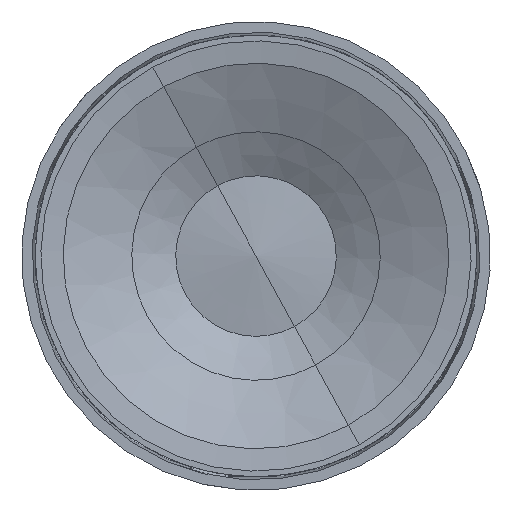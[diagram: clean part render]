
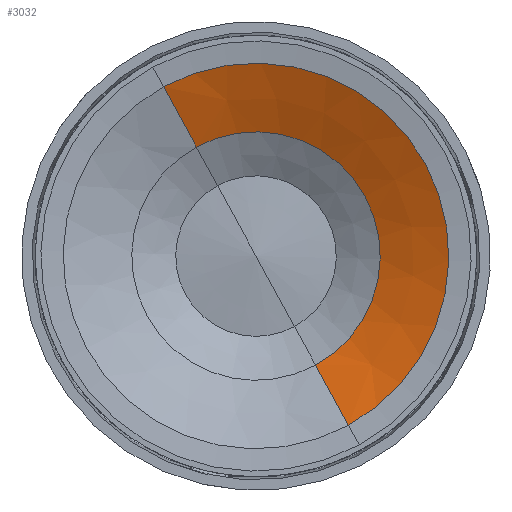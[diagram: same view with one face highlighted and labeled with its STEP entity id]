
A CAD part, top view. The second image highlights one B-rep face of the part: STEP entity #3032.
In plain terms, the highlighted conical face has half-angle 65.136 degrees and reference radius 13.251 mm.
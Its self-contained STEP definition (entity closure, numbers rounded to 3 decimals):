
#2964=CARTESIAN_POINT('Axis2P3D Location',(0.,0.,52.361)) ;
#2968=CARTESIAN_POINT('Vertex',(9.86,-18.049,52.361)) ;
#2970=CARTESIAN_POINT('Vertex',(-9.86,18.049,52.361)) ;
#3002=CARTESIAN_POINT('Axis2P3D Location',(0.,0.,48.971)) ;
#3007=CARTESIAN_POINT('Axis2P3D Location',(0.,0.,48.971)) ;
#3011=CARTESIAN_POINT('Vertex',(6.353,-11.629,48.971)) ;
#3013=CARTESIAN_POINT('Vertex',(-6.353,11.629,48.971)) ;
#3016=CARTESIAN_POINT('Line Origine',(8.107,-14.839,50.666)) ;
#3021=CARTESIAN_POINT('Line Origine',(-8.107,14.839,50.666)) ;
#2965=DIRECTION('Axis2P3D Direction',(0.,0.,1.)) ;
#3003=DIRECTION('Axis2P3D Direction',(0.,0.,1.)) ;
#3004=DIRECTION('Axis2P3D XDirection',(-0.479,0.878,0.)) ;
#3008=DIRECTION('Axis2P3D Direction',(0.,0.,1.)) ;
#3017=DIRECTION('Vector Direction',(0.435,-0.796,0.42)) ;
#3022=DIRECTION('Vector Direction',(-0.435,0.796,0.42)) ;
#2966=AXIS2_PLACEMENT_3D('Circle Axis2P3D',#2964,#2965,$) ;
#3005=AXIS2_PLACEMENT_3D('Cone Axis2P3D',#3002,#3003,#3004) ;
#3009=AXIS2_PLACEMENT_3D('Circle Axis2P3D',#3007,#3008,$) ;
#3027=ORIENTED_EDGE('',*,*,#3015,.F.) ;
#3028=ORIENTED_EDGE('',*,*,#3020,.T.) ;
#3029=ORIENTED_EDGE('',*,*,#2972,.T.) ;
#3030=ORIENTED_EDGE('',*,*,#3025,.F.) ;
#3018=VECTOR('Line Direction',#3017,1.) ;
#3023=VECTOR('Line Direction',#3022,1.) ;
#3032=ADVANCED_FACE('50_001',(#3031),#3006,.F.) ;
#2967=CIRCLE('generated circle',#2966,20.566) ;
#3010=CIRCLE('generated circle',#3009,13.251) ;
#3006=CONICAL_SURFACE('Cone',#3005,13.251,1.137) ;
#2972=EDGE_CURVE('',#2969,#2971,#2967,.T.) ;
#3015=EDGE_CURVE('',#3012,#3014,#3010,.T.) ;
#3020=EDGE_CURVE('',#3012,#2969,#3019,.T.) ;
#3025=EDGE_CURVE('',#3014,#2971,#3024,.T.) ;
#3026=EDGE_LOOP('',(#3027,#3028,#3029,#3030)) ;
#3031=FACE_OUTER_BOUND('',#3026,.T.) ;
#3019=LINE('Line',#3016,#3018) ;
#3024=LINE('Line',#3021,#3023) ;
#2969=VERTEX_POINT('',#2968) ;
#2971=VERTEX_POINT('',#2970) ;
#3012=VERTEX_POINT('',#3011) ;
#3014=VERTEX_POINT('',#3013) ;
